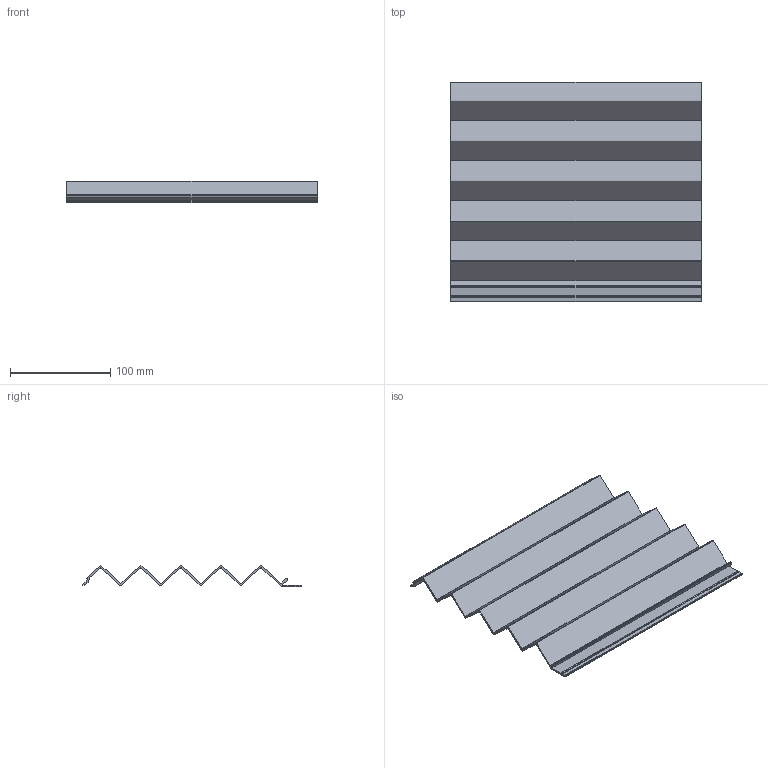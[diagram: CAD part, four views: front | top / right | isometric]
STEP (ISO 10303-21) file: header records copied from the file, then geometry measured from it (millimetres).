
FILE_DESCRIPTION(/* description */ (''),/* implementation_level */ '2;1');
FILE_NAME(/* name */ 'S3082P~1',/* time_stamp */ '2020-07-21T17:03:01+02:00',/* author */ (''),/* organization */ (''),/* preprocessor_version */ 'ST-DEVELOPER v15',/* originating_system */ '',/* authorisation */ '');
FILE_SCHEMA (('AUTOMOTIVE_DESIGN'));
Length unit declared in the file: millimetre
Products named in the file (1): Document
Bounding box: 250 x 219 x 21.66 mm (x, y, z)
Volume: 135937.6 mm3; surface area: 150561.8 mm2
Topology: 1 solids, 1 shells, 74 faces, 216 edges, 144 vertices
Faces by surface type: plane 38, bspline 36
Entity records: 2662 total; most frequent: CARTESIAN_POINT 1356, ORIENTED_EDGE 432, EDGE_CURVE 216, B_SPLINE_CURVE_WITH_KNOTS 144, VERTEX_POINT 144, ADVANCED_FACE 74, FACE_OUTER_BOUND 74, EDGE_LOOP 74
